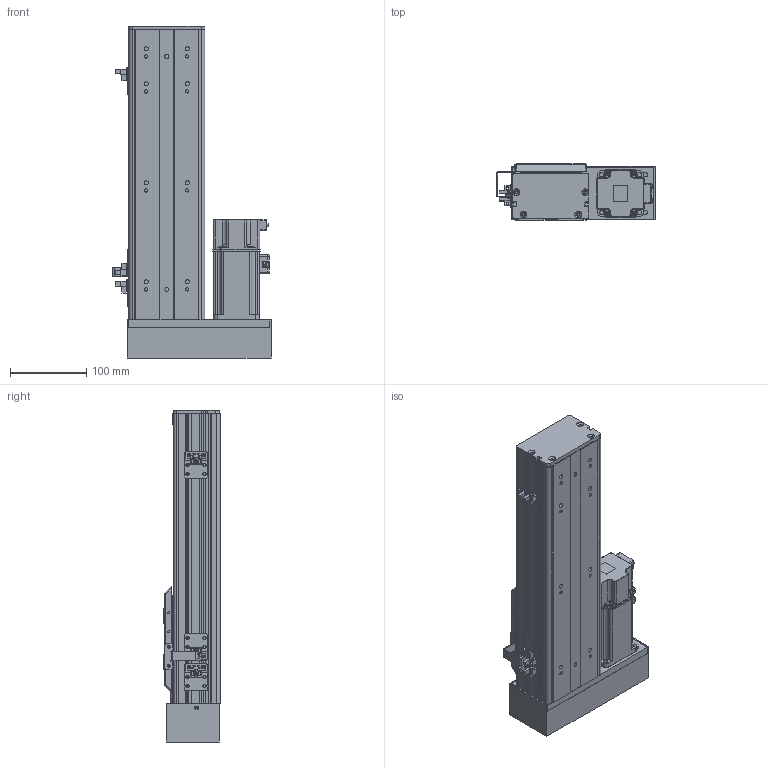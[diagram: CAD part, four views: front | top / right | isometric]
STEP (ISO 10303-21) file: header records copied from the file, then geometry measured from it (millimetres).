
FILE_DESCRIPTION (( 'STEP AP203' ), '1' );
FILE_NAME ('BOSW100-200-1610-1P-LM-M400W-O-S3（方程式2016）.step', '2020-10-10T06:52:10', ( '' ), ( '' ), 'SwSTEP 2.0', 'SolidWorks 2016', '' );
FILE_SCHEMA (( 'CONFIG_CONTROL_DESIGN' ));
Length unit declared in the file: millimetre
Products named in the file (14): BOSW-100-1P-DM-宽轨-钢带-200客户图纸; BOSW&TW-100-1P-賑雄釱欶; 放大器内置U型微型光电传感器PM-L65; BOSW-100-綴裔啣; BOSW-100-1P-DM-200諦誧芞; 俋境嫖覜嘐隅啣; AIMS(W)-100-LM&RM-肮祭謫欶; BOSW&TW-100-詩湍揤沭(陔賦凳); BOSW-100-1P-DM-宽轨-侧板-200客户图纸; BOSW100-200-1610-1P-LM-M400W-O-S3（方程式2016）; S400W(SMA-L040); boS-100-LM&RM-三菱M400W马达板-宽轨; 新结构AIMSW-100-1P-宽&高轨共用-滑动座上组件; BOSW&TW-100-俋离覜茼え
Assembly tree (19 placements, depth 2):
  BOSW100-200-1610-1P-LM-M400W-O-S3（方程式2016）
    BOSW-100-1P-DM-200諦誧芞
    BOSW-100-綴裔啣
    新结构AIMSW-100-1P-宽&高轨共用-滑动座上组件
    S400W(SMA-L040)
    BOSW&TW-100-詩湍揤沭(陔賦凳)  x2
    BOSW&TW-100-1P-賑雄釱欶
    BOSW&TW-100-俋离覜茼え
    俋境嫖覜嘐隅啣  x3
    放大器内置U型微型光电传感器PM-L65  x3
    BOSW-100-1P-DM-宽轨-侧板-200客户图纸  x2
    BOSW-100-1P-DM-宽轨-钢带-200客户图纸
    AIMS(W)-100-LM&RM-肮祭謫欶
    boS-100-LM&RM-三菱M400W马达板-宽轨
Bounding box: 207.9 x 75 x 436 mm (x, y, z)
Volume: 1163364 mm3; surface area: 583289.7 mm2
Topology: 19 solids, 20 shells, 2493 faces, 6567 edges, 4187 vertices
Faces by surface type: plane 1237, cylinder 770, bspline 271, cone 167, torus 36, sphere 12
Entity records: 68052 total; most frequent: CARTESIAN_POINT 20512, ORIENTED_EDGE 9674, DIRECTION 9345, EDGE_CURVE 4837, AXIS2_PLACEMENT_3D 3297, VERTEX_POINT 3089, VECTOR 2751, LINE 2751
